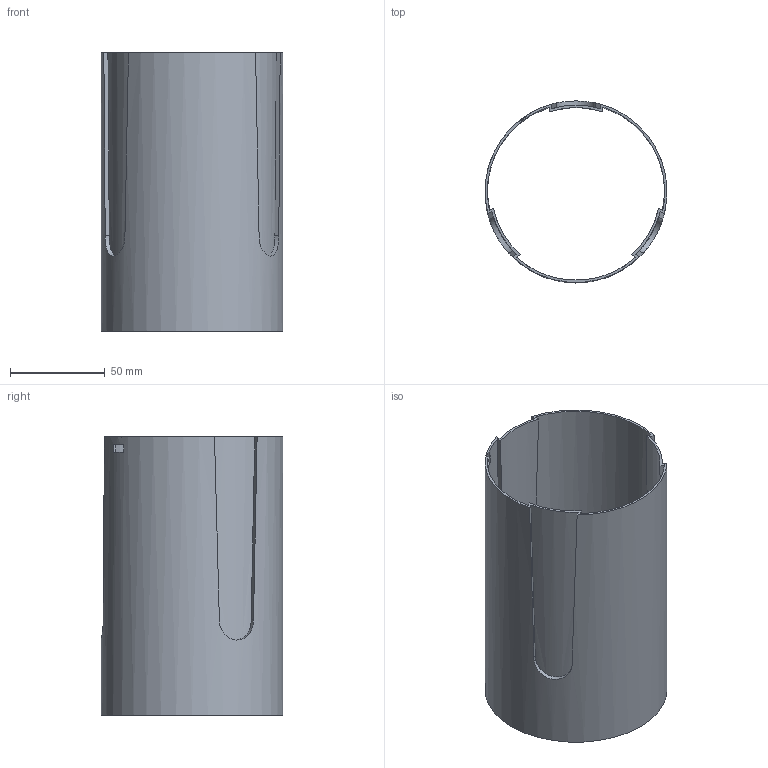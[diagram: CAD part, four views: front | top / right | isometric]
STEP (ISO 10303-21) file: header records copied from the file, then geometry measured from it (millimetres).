
FILE_DESCRIPTION(('Open CASCADE Model'),'2;1');
FILE_NAME('Open CASCADE Shape Model','2026-11-11T19:28:18',('Author'),( 'Open CASCADE'),'Open CASCADE STEP processor 7.9','Open CASCADE 7.9' ,'Unknown');
FILE_SCHEMA(('AUTOMOTIVE_DESIGN { 1 0 10303 214 1 1 1 1 }'));
Length unit declared in the file: millimetre
Products named in the file (1): Open CASCADE STEP translator 7.9 9
Bounding box: 96 x 96 x 146.8 mm (x, y, z)
Volume: 54443.3 mm3; surface area: 91554.8 mm2
Topology: 1 solids, 1 shells, 36 faces, 102 edges, 68 vertices
Faces by surface type: plane 22, cylinder 14
Full cylindrical faces by diameter (mm): 93.6 x1, 96 x1
Entity records: 4584 total; most frequent: CARTESIAN_POINT 2624, DIRECTION 351, ORIENTED_EDGE 204, PCURVE 204, DEFINITIONAL_REPRESENTATION 204, LINE 154, VECTOR 154, EDGE_CURVE 102
